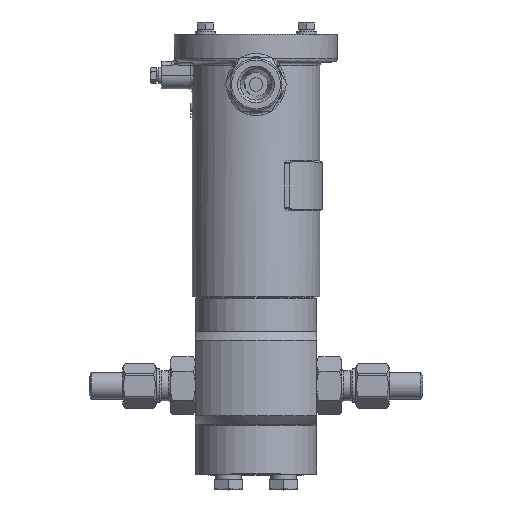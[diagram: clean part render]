
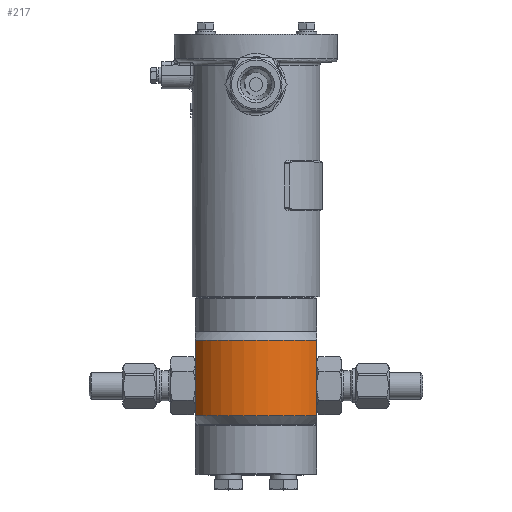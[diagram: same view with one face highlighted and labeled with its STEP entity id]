
A CAD part, top view. The second image highlights one B-rep face of the part: STEP entity #217.
In plain terms, the highlighted cylindrical face has radius 42.5 mm (diameter 85 mm), a partial arc.
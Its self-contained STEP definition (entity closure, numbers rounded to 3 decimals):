
#217=ADVANCED_FACE('',(#5426),#5428,.T.);
#5426=FACE_OUTER_BOUND('',#5427,.T.);
#5427=EDGE_LOOP('',(#20112,#20113,#20114,#20115));
#5428=CYLINDRICAL_SURFACE('',#5429,42.5);
#5429=AXIS2_PLACEMENT_3D('',#5430,#5431,#5432);
#5430=CARTESIAN_POINT('',(0.,27.,0.));
#5431=DIRECTION('',(0.,-1.,0.));
#5432=DIRECTION('',(1.,0.,0.));
#20112=ORIENTED_EDGE('',*,*,#31399,.T.);
#20113=ORIENTED_EDGE('',*,*,#31420,.T.);
#20114=ORIENTED_EDGE('',*,*,#31409,.T.);
#20115=ORIENTED_EDGE('',*,*,#31401,.F.);
#31399=EDGE_CURVE('',#36173,#36171,#36174,.F.);
#31401=EDGE_CURVE('',#36173,#36176,#36177,.T.);
#31409=EDGE_CURVE('',#36191,#36176,#36192,.T.);
#31420=EDGE_CURVE('',#36171,#36191,#36208,.T.);
#36171=VERTEX_POINT('',#45522);
#36173=VERTEX_POINT('',#45550);
#36174=LINE('',#45551,#45552);
#36176=VERTEX_POINT('',#45585);
#36177=CIRCLE('',#45586,42.5);
#36191=VERTEX_POINT('',#45651);
#36192=LINE('',#45652,#45653);
#36208=CIRCLE('',#45771,42.5);
#45522=CARTESIAN_POINT('',(36.,27.,22.589));
#45550=CARTESIAN_POINT('',(36.,-18.,22.589));
#45551=CARTESIAN_POINT('',(36.,27.,22.589));
#45552=VECTOR('',#45553,1.);
#45553=DIRECTION('',(0.,-1.,0.));
#45585=CARTESIAN_POINT('',(-36.,-18.,22.589));
#45586=AXIS2_PLACEMENT_3D('',#45587,#45588,#45589);
#45587=CARTESIAN_POINT('',(0.,-18.,0.));
#45588=DIRECTION('',(0.,-1.,0.));
#45589=DIRECTION('',(0.847,0.,0.531));
#45651=CARTESIAN_POINT('',(-36.,27.,22.589));
#45652=CARTESIAN_POINT('',(-36.,27.,22.589));
#45653=VECTOR('',#45654,1.);
#45654=DIRECTION('',(0.,-1.,0.));
#45771=AXIS2_PLACEMENT_3D('',#45772,#45773,#45774);
#45772=CARTESIAN_POINT('',(0.,27.,0.));
#45773=DIRECTION('',(0.,-1.,0.));
#45774=DIRECTION('',(0.847,0.,0.531));
